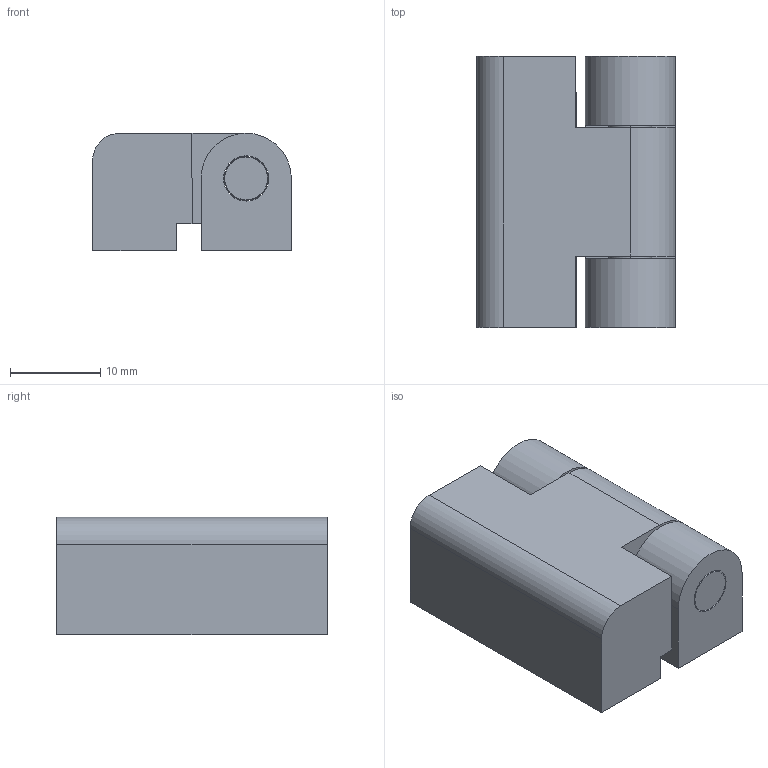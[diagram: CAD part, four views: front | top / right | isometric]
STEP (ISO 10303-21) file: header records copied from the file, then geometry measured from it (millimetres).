
FILE_DESCRIPTION (( 'STEP AP203' ), '1' );
FILE_NAME ('XG02-033-2.STEP', '2023-12-07T07:06:18', ( '' ), ( '' ), 'SwSTEP 2.0', 'SolidWorks 2020', '' );
FILE_SCHEMA (( 'CONFIG_CONTROL_DESIGN' ));
Length unit declared in the file: millimetre
Products named in the file (4): 30-22-C; 30-22-B; XG02-033-2; 30-22-A
Assembly tree (3 placements, depth 2):
  XG02-033-2
    30-22-A
    30-22-B
    30-22-C
Bounding box: 22 x 30 x 13 mm (x, y, z)
Volume: 6223.4 mm3; surface area: 5336 mm2
Topology: 3 solids, 3 shells, 657 faces, 1939 edges, 1286 vertices
Faces by surface type: cylinder 348, plane 301, cone 8
Entity records: 22847 total; most frequent: DIRECTION 4109, CARTESIAN_POINT 4084, ORIENTED_EDGE 3862, EDGE_CURVE 1931, AXIS2_PLACEMENT_3D 1531, VERTEX_POINT 1286, LINE 1047, VECTOR 1047
